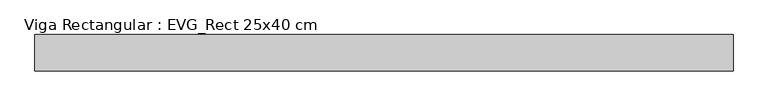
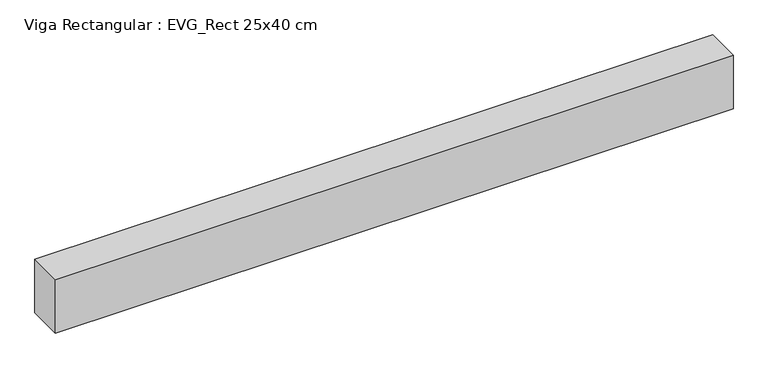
"""IFC4 building model written with IfcOpenShell, lengths in millimetres: beam geometry, Viga Rectangular : EVG_Rect 25x40 cm."""

from ifc_helpers import new_model, si_unit, frame, origin, place, context, project, spatial, polyline, outline, extrude, source, transform, mapped, element, save


def viga_rectangular_evg_rect_25x40_cm_e96bc27a(model_context):
    return source(origin(), model_context, "Body", "SweptSolid", [
        extrude(outline(polyline([(2415.0, 125.0), (2415.0, -125.0), (-2385.0, -125.0), (-2385.0, 125.0), (2415.0, 125.0)])), frame((0.0, 0.0, -400.0), z_axis=(0.0, 0.0, 1.0), x_axis=(1.0, 0.0, 0.0)), (0.0, 0.0, 1.0), 400.0),
    ])


if __name__ == "__main__":
    model = new_model("IFC4")
    model_context = context("Model", 3, world=origin())
    ifc_project = project(units=[si_unit("LENGTHUNIT", "METRE", prefix="MILLI")], contexts=[model_context])
    site = spatial("IfcSite", under=ifc_project)
    building = spatial("IfcBuilding", under=site)
    placement = place(None, origin())
    viga_rectangular_evg_rect_25x40_cm_shape = viga_rectangular_evg_rect_25x40_cm_e96bc27a(model_context)
    element("IfcBeam", 1, ObjectType="Viga Rectangular : EVG_Rect 25x40 cm", at=placement, inside=building, context=model_context, shape_type="MappedRepresentation", body=[
        mapped(viga_rectangular_evg_rect_25x40_cm_shape, transform((0.0, 0.0, 0.0), x_axis=(1.0, 0.0, 0.0), y_axis=(0.0, 1.0, 0.0), z_axis=(0.0, 0.0, 1.0))),
    ])
    save(model, "model.ifc")
